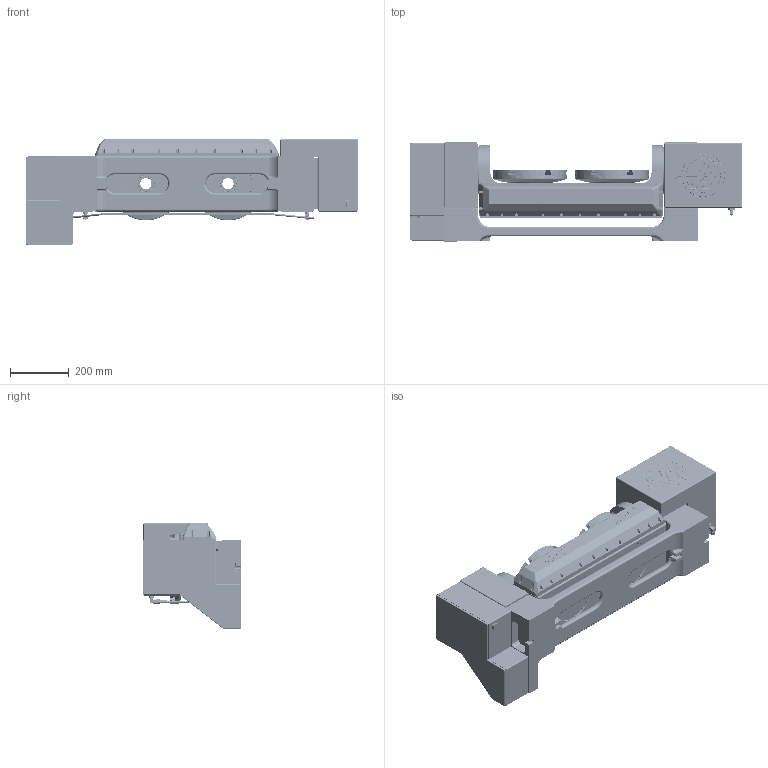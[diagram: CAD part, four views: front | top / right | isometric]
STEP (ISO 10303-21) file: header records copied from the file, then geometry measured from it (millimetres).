
FILE_DESCRIPTION (( 'STEP AP214' ), '1' );
FILE_NAME ('TR160-2_STEP_2020-03.STEP', '2020-03-04T20:25:02', ( '' ), ( '' ), 'SwSTEP 2.0', 'SolidWorks 2019', '' );
FILE_SCHEMA (( 'AUTOMOTIVE_DESIGN' ));
Length unit declared in the file: inch
Products named in the file (5): 250mm Platter (Option); TR160-2_STEP_2020-03; Tilt Axis TR160-2_defeature; Base- TR160-2; 160mm Platter (Standard)
Assembly tree (6 placements, depth 2):
  TR160-2_STEP_2020-03
    Base- TR160-2
    160mm Platter (Standard)  x2
    250mm Platter (Option)  x2
    Tilt Axis TR160-2_defeature
Bounding box: 1129.19 x 336.55 x 361.84 mm (x, y, z)
Volume: 49040582.8 mm3; surface area: 3612042.7 mm2
Topology: 41 solids, 41 shells, 6203 faces, 15981 edges, 10092 vertices
Faces by surface type: cylinder 2259, plane 1788, sphere 1098, cone 572, torus 331, bspline 155
Entity records: 226044 total; most frequent: CARTESIAN_POINT 48265, DIRECTION 28963, ORIENTED_EDGE 27542, EDGE_CURVE 13771, AXIS2_PLACEMENT_3D 11725, VERTEX_POINT 8768, CIRCLE 6462, EDGE_LOOP 5835
